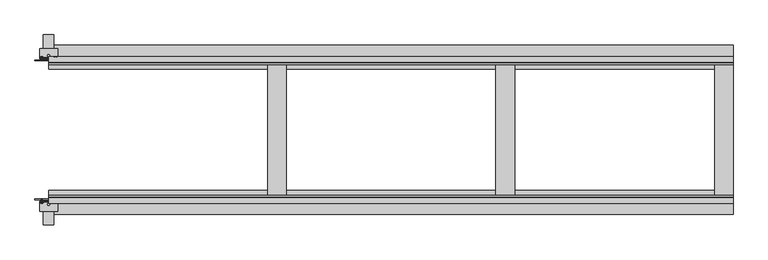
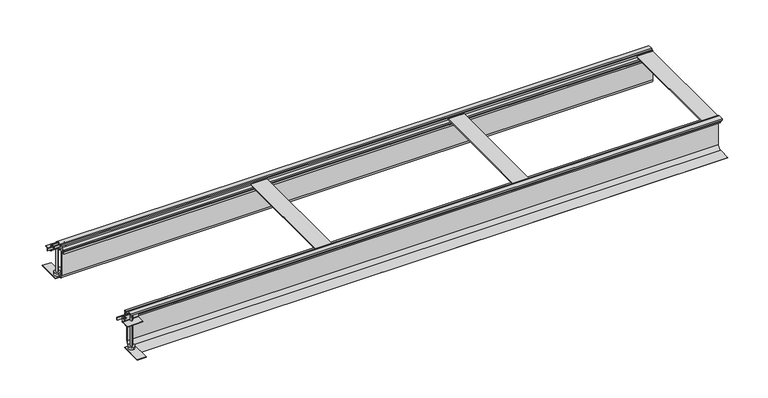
"""IFC4 building model written with IfcOpenShell, lengths in millimetres: proxy geometry."""

from ifc_helpers import new_model, si_unit, point, frame, frame_2d, origin, place, context, project, spatial, polyline, circle_curve, ellipse_curve, trimmed, segment, composite_curve, outline, extrude, source, transform, mapped, element, save
from ifc_brep_helpers import plane_surface, cylinder_surface, revolved_surface, advanced_brep


def electrical_fixtures_e54105be(model_context):
    return source(origin(), model_context, "Body", "SolidModel", [
        advanced_brep(
        [(-19.209696, -256.6418922, 3.3), (-28.790304, -256.6418922, 3.3), (-28.790304, -254.7, 3.3), (-19.209696, -254.7, 3.3), (-26.562969, -254.7, 3.3), (-21.437031, -254.7, 3.3), (-26.562969, -242.7, 3.3), (-21.437031, -242.7, 3.3), (-24.0, -242.7, 3.3), (-24.0, -258.3479209, 3.3)],
        [
            (0, 1, circle_curve(frame((-24.0, -256.6418922, 3.3), z_axis=(0.0, 1.0, 0.0), x_axis=(-1.0, 0.0, 0.0)), 4.790304)),
            (1, 2),
            (2, 3, circle_curve(frame((-24.0, -254.7, 3.3), z_axis=(0.0, -1.0, 0.0), x_axis=(-1.0, 0.0, 0.0)), 4.790304)),
            (3, 0),
            (1, 0, circle_curve(frame((-24.0, -256.6418922, 3.3), z_axis=(0.0, 1.0, 0.0), x_axis=(-1.0, 0.0, 0.0)), 4.790304)),
            (3, 2, circle_curve(frame((-24.0, -254.7, 3.3), z_axis=(0.0, -1.0, 0.0), x_axis=(-1.0, 0.0, 0.0)), 4.790304)),
            (2, 4),
            (4, 5, circle_curve(frame((-24.0, -254.7, 3.3), z_axis=(0.0, -1.0, 0.0), x_axis=(-1.0, 0.0, 0.0)), 2.562969)),
            (5, 3),
            (5, 4, circle_curve(frame((-24.0, -254.7, 3.3), z_axis=(0.0, -1.0, 0.0), x_axis=(-1.0, 0.0, 0.0)), 2.562969)),
            (4, 6),
            (6, 7, circle_curve(frame((-24.0, -242.7, 3.3), z_axis=(0.0, -1.0, 0.0), x_axis=(-1.0, 0.0, 0.0)), 2.562969)),
            (7, 5),
            (7, 6, circle_curve(frame((-24.0, -242.7, 3.3), z_axis=(0.0, -1.0, 0.0), x_axis=(-1.0, 0.0, 0.0)), 2.562969)),
            (6, 8),
            (8, 7),
            (9, 1, circle_curve(frame((-24.0319066, -250.8592246, 3.3), z_axis=(0.0, 0.0, -1.0), x_axis=(-1.0, 0.0, 0.0)), 7.4887643)),
            (0, 9, circle_curve(frame((-23.9680934, -250.8592246, 3.3), z_axis=(0.0, 0.0, -1.0), x_axis=(1.0, 0.0, 0.0)), 7.4887643)),
        ],
        [
            cylinder_surface(frame((-24.0, -254.2950786, 3.3), z_axis=(0.0, -1.0, 0.0), x_axis=(-1.0, 0.0, 0.0)), 4.790304),
            plane_surface(frame((-24.0, -254.7, 3.3), z_axis=(0.0, 1.0, 0.0), x_axis=(-1.0, 0.0, 0.0))),
            cylinder_surface(frame((-24.0, -254.2950786, 3.3), z_axis=(0.0, -1.0, 0.0), x_axis=(-1.0, 0.0, 0.0)), 2.562969),
            plane_surface(frame((-24.0, -242.7, 3.3), z_axis=(0.0, 1.0, 0.0), x_axis=(-1.0, 0.0, 0.0))),
            revolved_surface(trimmed(ellipse_curve(frame((-24.0319066, -250.8592246, 3.3), z_axis=(0.0, 0.0, 1.0), x_axis=(-1.0, 0.0, 0.0)), 7.4887643, 7.4887643), [point((-28.790304, -256.6418922, 3.3))], [point((-24.0, -258.3479209, 3.3))], True, "CARTESIAN"), (-24.0, -254.2950786, 3.3), (0.0, -1.0, 0.0)),
        ],
        [
            (0, [[1, 2, 3, 4]]),
            (0, [[5, -4, 6, -2]]),
            (1, [[-3, 7, 8, 9]]),
            (1, [[-6, -9, 10, -7]]),
            (2, [[-8, 11, 12, 13]]),
            (2, [[-10, -13, 14, -11]]),
            (3, [[-12, 15, 16]]),
            (3, [[-14, -16, -15]]),
            (4, [[17, -1, 18]]),
            (4, [[-18, -5, -17]]),
        ],
    ),
        advanced_brep(
        [(29.0575247, 254.7, 3.3), (19.4769168, 254.7, 3.3), (19.4769168, 256.6418922, 3.3), (29.0575247, 256.6418922, 3.3), (26.8301898, 254.7, 3.3), (21.7042517, 254.7, 3.3), (26.8301898, 242.7, 3.3), (21.7042517, 242.7, 3.3), (24.2672208, 242.7, 3.3), (24.2672208, 258.3479209, 3.3)],
        [
            (0, 1, circle_curve(frame((24.2672208, 254.7, 3.3), z_axis=(0.0, 1.0, 0.0), x_axis=(-1.0, 0.0, 0.0)), 4.790304)),
            (1, 2),
            (2, 3, circle_curve(frame((24.2672208, 256.6418922, 3.3), z_axis=(0.0, -1.0, 0.0), x_axis=(-1.0, 0.0, 0.0)), 4.790304)),
            (3, 0),
            (1, 0, circle_curve(frame((24.2672208, 254.7, 3.3), z_axis=(0.0, 1.0, 0.0), x_axis=(-1.0, 0.0, 0.0)), 4.790304)),
            (3, 2, circle_curve(frame((24.2672208, 256.6418922, 3.3), z_axis=(0.0, -1.0, 0.0), x_axis=(-1.0, 0.0, 0.0)), 4.790304)),
            (4, 5, circle_curve(frame((24.2672208, 254.7, 3.3), z_axis=(0.0, 1.0, 0.0), x_axis=(-1.0, 0.0, 0.0)), 2.562969)),
            (5, 1),
            (0, 4),
            (5, 4, circle_curve(frame((24.2672208, 254.7, 3.3), z_axis=(0.0, 1.0, 0.0), x_axis=(-1.0, 0.0, 0.0)), 2.562969)),
            (6, 7, circle_curve(frame((24.2672208, 242.7, 3.3), z_axis=(0.0, 1.0, 0.0), x_axis=(-1.0, 0.0, 0.0)), 2.562969)),
            (7, 5),
            (4, 6),
            (7, 6, circle_curve(frame((24.2672208, 242.7, 3.3), z_axis=(0.0, 1.0, 0.0), x_axis=(-1.0, 0.0, 0.0)), 2.562969)),
            (8, 7),
            (6, 8),
            (2, 9, circle_curve(frame((24.2353142, 250.8592246, 3.3), z_axis=(0.0, 0.0, -1.0), x_axis=(-1.0, 0.0, 0.0)), 7.4887643)),
            (9, 3, circle_curve(frame((24.2991274, 250.8592246, 3.3), z_axis=(0.0, 0.0, -1.0), x_axis=(1.0, 0.0, 0.0)), 7.4887643)),
        ],
        [
            cylinder_surface(frame((24.2672208, 254.2950786, 3.3), z_axis=(0.0, -1.0, 0.0), x_axis=(-1.0, 0.0, 0.0)), 4.790304),
            plane_surface(frame((24.2672208, 254.7, 3.3), z_axis=(0.0, -1.0, 0.0), x_axis=(-1.0, 0.0, 0.0))),
            cylinder_surface(frame((24.2672208, 254.2950786, 3.3), z_axis=(0.0, -1.0, 0.0), x_axis=(-1.0, 0.0, 0.0)), 2.562969),
            plane_surface(frame((24.2672208, 242.7, 3.3), z_axis=(0.0, -1.0, 0.0), x_axis=(-1.0, 0.0, 0.0))),
            revolved_surface(trimmed(ellipse_curve(frame((24.2353142, 250.8592246, 3.3), z_axis=(0.0, 0.0, 1.0), x_axis=(-1.0, 0.0, 0.0)), 7.4887643, 7.4887643), [point((24.2672208, 258.3479209, 3.3))], [point((19.4769168, 256.6418922, 3.3))], True, "CARTESIAN"), (24.2672208, 254.2950786, 3.3), (0.0, -1.0, 0.0)),
        ],
        [
            (0, [[1, 2, 3, 4]]),
            (0, [[5, -4, 6, -2]]),
            (1, [[7, 8, -1, 9]]),
            (1, [[10, -9, -5, -8]]),
            (2, [[11, 12, -7, 13]]),
            (2, [[14, -13, -10, -12]]),
            (3, [[15, -11, 16]]),
            (3, [[-16, -14, -15]]),
            (4, [[-3, 17, 18]]),
            (4, [[-6, -18, -17]]),
        ],
    ),
        advanced_brep(
        [(-19.209696, 254.7, 3.3), (-28.790304, 254.7, 3.3), (-28.790304, 256.6418922, 3.3), (-19.209696, 256.6418922, 3.3), (-21.437031, 254.7, 3.3), (-26.562969, 254.7, 3.3), (-21.437031, 242.7, 3.3), (-26.562969, 242.7, 3.3), (-24.0, 242.7, 3.3), (-24.0, 258.3479209, 3.3)],
        [
            (0, 1, circle_curve(frame((-24.0, 254.7, 3.3), z_axis=(0.0, 1.0, 0.0), x_axis=(-1.0, 0.0, 0.0)), 4.790304)),
            (1, 2),
            (2, 3, circle_curve(frame((-24.0, 256.6418922, 3.3), z_axis=(0.0, -1.0, 0.0), x_axis=(-1.0, 0.0, 0.0)), 4.790304)),
            (3, 0),
            (1, 0, circle_curve(frame((-24.0, 254.7, 3.3), z_axis=(0.0, 1.0, 0.0), x_axis=(-1.0, 0.0, 0.0)), 4.790304)),
            (3, 2, circle_curve(frame((-24.0, 256.6418922, 3.3), z_axis=(0.0, -1.0, 0.0), x_axis=(-1.0, 0.0, 0.0)), 4.790304)),
            (4, 5, circle_curve(frame((-24.0, 254.7, 3.3), z_axis=(0.0, 1.0, 0.0), x_axis=(-1.0, 0.0, 0.0)), 2.562969)),
            (5, 1),
            (0, 4),
            (5, 4, circle_curve(frame((-24.0, 254.7, 3.3), z_axis=(0.0, 1.0, 0.0), x_axis=(-1.0, 0.0, 0.0)), 2.562969)),
            (6, 7, circle_curve(frame((-24.0, 242.7, 3.3), z_axis=(0.0, 1.0, 0.0), x_axis=(-1.0, 0.0, 0.0)), 2.562969)),
            (7, 5),
            (4, 6),
            (7, 6, circle_curve(frame((-24.0, 242.7, 3.3), z_axis=(0.0, 1.0, 0.0), x_axis=(-1.0, 0.0, 0.0)), 2.562969)),
            (8, 7),
            (6, 8),
            (2, 9, circle_curve(frame((-24.0319066, 250.8592246, 3.3), z_axis=(0.0, 0.0, -1.0), x_axis=(-1.0, 0.0, 0.0)), 7.4887643)),
            (9, 3, circle_curve(frame((-23.9680934, 250.8592246, 3.3), z_axis=(0.0, 0.0, -1.0), x_axis=(1.0, 0.0, 0.0)), 7.4887643)),
        ],
        [
            cylinder_surface(frame((-24.0, 254.2950786, 3.3), z_axis=(0.0, -1.0, 0.0), x_axis=(-1.0, 0.0, 0.0)), 4.790304),
            plane_surface(frame((-24.0, 254.7, 3.3), z_axis=(0.0, -1.0, 0.0), x_axis=(-1.0, 0.0, 0.0))),
            cylinder_surface(frame((-24.0, 254.2950786, 3.3), z_axis=(0.0, -1.0, 0.0), x_axis=(-1.0, 0.0, 0.0)), 2.562969),
            plane_surface(frame((-24.0, 242.7, 3.3), z_axis=(0.0, -1.0, 0.0), x_axis=(-1.0, 0.0, 0.0))),
            revolved_surface(trimmed(ellipse_curve(frame((-24.0319066, 250.8592246, 3.3), z_axis=(0.0, 0.0, 1.0), x_axis=(-1.0, 0.0, 0.0)), 7.4887643, 7.4887643), [point((-24.0, 258.3479209, 3.3))], [point((-28.790304, 256.6418922, 3.3))], True, "CARTESIAN"), (-24.0, 254.2950786, 3.3), (0.0, -1.0, 0.0)),
        ],
        [
            (0, [[1, 2, 3, 4]]),
            (0, [[5, -4, 6, -2]]),
            (1, [[7, 8, -1, 9]]),
            (1, [[10, -9, -5, -8]]),
            (2, [[11, 12, -7, 13]]),
            (2, [[14, -13, -10, -12]]),
            (3, [[15, -11, 16]]),
            (3, [[-16, -14, -15]]),
            (4, [[-3, 17, 18]]),
            (4, [[-6, -18, -17]]),
        ],
    ),
        extrude(outline(polyline([(-48.0, 242.7), (-48.0, 245.7), (48.0, 245.7), (48.0, 242.7), (-48.0, 242.7)])), frame((0.0, 0.0, -1.7), z_axis=(0.0, 0.0, 1.0), x_axis=(1.0, 0.0, 0.0)), (0.0, 0.0, 1.0), 10.0),
        extrude(outline(polyline([(-48.0, -245.7), (-48.0, -242.7), (48.0, -242.7), (48.0, -245.7), (-48.0, -245.7)])), frame((0.0, 0.0, -1.7), z_axis=(0.0, 0.0, 1.0), x_axis=(1.0, 0.0, 0.0)), (0.0, 0.0, 1.0), 10.0),
        extrude(outline(composite_curve([segment(polyline([(250.6, 11.7), (252.6, 11.7), (252.6, -10.3088822)]), True, "CONTINUOUS"), segment(trimmed(circle_curve(frame_2d((253.5911178, -10.3088822)), 0.9911178), [point((252.6, -10.3088822))], [point((253.5911178, -11.3))], True, "CARTESIAN"), True, "CONTINUOUS"), segment(polyline([(253.5911178, -11.3), (285.6, -11.3), (285.6, -13.3), (253.6002521, -13.3)]), True, "CONTINUOUS"), segment(trimmed(circle_curve(frame_2d((253.6002521, -10.2997479)), 3.0002521), [point((253.6002521, -13.3))], [point((250.6, -10.2997479))], False, "CARTESIAN"), True, "CONTINUOUS"), segment(polyline([(250.6, -10.2997479), (250.6, 11.7)]), True, "CONTINUOUS")], self_intersect=False)), frame((-31.7, 0.0, 0.0), z_axis=(1.0, 0.0, 0.0), x_axis=(0.0, 1.0, 0.0)), (0.0, 0.0, 1.0), 63.4),
        extrude(outline(composite_curve([segment(polyline([(-250.6, 11.7), (-250.6, -10.2997479)]), True, "CONTINUOUS"), segment(trimmed(circle_curve(frame_2d((-253.6002521, -10.2997479)), 3.0002521), [point((-250.6, -10.2997479))], [point((-253.6002521, -13.3))], False, "CARTESIAN"), True, "CONTINUOUS"), segment(polyline([(-253.6002521, -13.3), (-285.6, -13.3), (-285.6, -11.3), (-253.5911178, -11.3)]), True, "CONTINUOUS"), segment(trimmed(circle_curve(frame_2d((-253.5911178, -10.3088822)), 0.9911178), [point((-253.5911178, -11.3))], [point((-252.6, -10.3088822))], True, "CARTESIAN"), True, "CONTINUOUS"), segment(polyline([(-252.6, -10.3088822), (-252.6, 11.7), (-250.6, 11.7)]), True, "CONTINUOUS")], self_intersect=False)), frame((-31.7, 0.0, 0.0), z_axis=(1.0, 0.0, 0.0), x_axis=(0.0, 1.0, 0.0)), (0.0, 0.0, 1.0), 63.4),
        extrude(outline(composite_curve([segment(trimmed(circle_curve(frame_2d((0.0, 261.1712378)), 3.9923162), [point((0.0, 265.163554))], [point((0.0, 257.1789216))], False, "CARTESIAN"), True, "CONTINUOUS"), segment(trimmed(circle_curve(frame_2d((0.0, 261.1712378)), 3.9923162), [point((0.0, 257.1789216))], [point((0.0, 265.163554))], False, "CARTESIAN"), True, "CONTINUOUS")], self_intersect=False)), frame((0.0, 0.0, -119.0), z_axis=(0.0, 0.0, 1.0), x_axis=(1.0, 0.0, 0.0)), (0.0, 0.0, 1.0), 126.8),
        extrude(outline(composite_curve([segment(trimmed(circle_curve(frame_2d((0.0, -261.0787011)), 3.991847), [point((0.0, -257.0868541))], [point((0.0, -265.0705482))], False, "CARTESIAN"), True, "CONTINUOUS"), segment(trimmed(circle_curve(frame_2d((0.0, -261.0787011)), 3.991847), [point((0.0, -265.0705482))], [point((0.0, -257.0868541))], False, "CARTESIAN"), True, "CONTINUOUS")], self_intersect=False)), frame((0.0, 0.0, -119.0), z_axis=(0.0, 0.0, 1.0), x_axis=(1.0, 0.0, 0.0)), (0.0, 0.0, 1.0), 126.8),
        extrude(outline(composite_curve([segment(trimmed(circle_curve(frame_2d((0.0, 261.1652527)), 12.0), [point((0.0, 273.1652527))], [point((0.0, 249.1652527))], False, "CARTESIAN"), True, "CONTINUOUS"), segment(trimmed(circle_curve(frame_2d((0.0, 261.1652527)), 12.0), [point((0.0, 249.1652527))], [point((0.0, 273.1652527))], False, "CARTESIAN"), True, "CONTINUOUS")], self_intersect=False)), frame((0.0, 0.0, -129.7), z_axis=(0.0, 0.0, 1.0), x_axis=(1.0, 0.0, 0.0)), (0.0, 0.0, 1.0), 10.7),
        extrude(outline(composite_curve([segment(trimmed(circle_curve(frame_2d((0.0, -261.112037)), 12.0), [point((0.0, -249.112037))], [point((0.0, -273.112037))], False, "CARTESIAN"), True, "CONTINUOUS"), segment(trimmed(circle_curve(frame_2d((0.0, -261.112037)), 12.0), [point((0.0, -273.112037))], [point((0.0, -249.112037))], False, "CARTESIAN"), True, "CONTINUOUS")], self_intersect=False)), frame((0.0, 0.0, -129.7), z_axis=(0.0, 0.0, 1.0), x_axis=(1.0, 0.0, 0.0)), (0.0, 0.0, 1.0), 10.7),
        extrude(outline(polyline([(18.0, 244.1), (-18.0, 244.1), (-18.0, 334.1), (18.0, 334.1), (18.0, 244.1)])), frame((0.0, 0.0, -131.2), z_axis=(0.0, 0.0, 1.0), x_axis=(1.0, 0.0, 0.0)), (0.0, 0.0, 1.0), 1.5),
        extrude(outline(polyline([(18.0, -334.1), (-18.0, -334.1), (-18.0, -244.1), (18.0, -244.1), (18.0, -334.1)])), frame((0.0, 0.0, -131.2), z_axis=(0.0, 0.0, 1.0), x_axis=(1.0, 0.0, 0.0)), (0.0, 0.0, 1.0), 1.5),
        extrude(outline(polyline([(2400.0, 230.0), (2400.0, -230.0), (2335.0, -230.0), (2335.0, 230.0), (2400.0, 230.0)])), frame((0.0, 0.0, 2.5), z_axis=(0.0, 0.0, 1.0), x_axis=(1.0, 0.0, 0.0)), (0.0, 0.0, 1.0), 4.2),
        extrude(outline(polyline([(1633.5851476, 229.8), (1633.5851476, -229.8), (1568.585332, -229.8), (1568.585332, 229.8), (1633.5851476, 229.8)])), frame((0.0, 0.0, 2.5), z_axis=(0.0, 0.0, 1.0), x_axis=(1.0, 0.0, 0.0)), (0.0, 0.0, 1.0), 4.2),
        extrude(outline(polyline([(833.5851476, 229.8), (833.5851476, -229.8), (768.585332, -229.8), (768.585332, 229.8), (833.5851476, 229.8)])), frame((0.0, 0.0, 2.5), z_axis=(0.0, 0.0, 1.0), x_axis=(1.0, 0.0, 0.0)), (0.0, 0.0, 1.0), 4.2),
        extrude(outline(polyline([(258.0, 6.7), (240.0, 6.7), (240.0, -2.5), (250.475, -2.5), (250.475, -4.0), (244.6, -4.0), (244.6, -14.0), (243.1, -14.0), (243.1, -4.0), (235.1, -4.0), (235.1, -10.1), (223.3, -10.1), (223.3, -14.0), (213.1, -14.0), (213.1, -6.6607064), (216.0, -6.6607064), (216.0, -12.5), (220.7, -12.5), (220.7, 0.5), (216.0, 0.5), (216.0, -2.1), (212.9910979, -2.1), (212.9910979, 2.5), (229.8, 2.5), (229.8, 10.0), (235.0, 10.0), (235.0, -0.5), (238.0, -0.5), (238.0, 13.0), (258.0, 13.0), (258.0, 6.7)])), frame((0.0, 0.0, 0.0), z_axis=(1.0, 0.0, 0.0), x_axis=(0.0, 1.0, 0.0)), (0.0, 0.0, 1.0), 2400.0),
        extrude(outline(polyline([(-258.0, 6.7), (-258.0, 13.0), (-238.0, 13.0), (-238.0, -0.5), (-235.0, -0.5), (-235.0, 10.0), (-229.8, 10.0), (-229.8, 2.5), (-212.9910979, 2.5), (-212.9910979, -2.1), (-216.0, -2.1), (-216.0, 0.5), (-220.7, 0.5), (-220.7, -12.5), (-216.0, -12.5), (-216.0, -6.6607064), (-213.1, -6.6607064), (-213.1, -14.0), (-223.3, -14.0), (-223.3, -10.1), (-235.1, -10.1), (-235.1, -4.0), (-243.1, -4.0), (-243.1, -14.0), (-244.6, -14.0), (-244.6, -4.0), (-250.475, -4.0), (-250.475, -2.5), (-240.0, -2.5), (-240.0, 6.7), (-258.0, 6.7)])), frame((0.0, 0.0, 0.0), z_axis=(1.0, 0.0, 0.0), x_axis=(0.0, 1.0, 0.0)), (0.0, 0.0, 1.0), 2400.0),
        extrude(outline(composite_curve([segment(polyline([(230.1407967, -1.2), (230.9257245, -1.2), (230.9257245, -116.2)]), True, "CONTINUOUS"), segment(trimmed(circle_curve(frame_2d((245.9257245, -116.2)), 15.0), [point((230.9257245, -116.2))], [point((245.9257245, -131.2))], True, "CARTESIAN"), True, "CONTINUOUS"), segment(polyline([(245.9257245, -131.2), (297.2934005, -131.2), (297.2934005, -131.9992624), (245.1407967, -131.9992624)]), True, "CONTINUOUS"), segment(trimmed(circle_curve(frame_2d((245.1407967, -116.9992624)), 15.0), [point((245.1407967, -131.9992624))], [point((230.1407967, -116.9992624))], False, "CARTESIAN"), True, "CONTINUOUS"), segment(polyline([(230.1407967, -116.9992624), (230.1407967, -1.2)]), True, "CONTINUOUS")], self_intersect=False)), frame((0.0, 0.0, 0.0), z_axis=(1.0, 0.0, 0.0), x_axis=(0.0, 1.0, 0.0)), (0.0, 0.0, 1.0), 2400.0),
        extrude(outline(composite_curve([segment(polyline([(-230.1407967, -1.2), (-230.1407967, -116.9992624)]), True, "CONTINUOUS"), segment(trimmed(circle_curve(frame_2d((-245.1407967, -116.9992624)), 15.0), [point((-230.1407967, -116.9992624))], [point((-245.1407967, -131.9992624))], False, "CARTESIAN"), True, "CONTINUOUS"), segment(polyline([(-245.1407967, -131.9992624), (-297.2934005, -131.9992624), (-297.2934005, -131.2), (-245.9257245, -131.2)]), True, "CONTINUOUS"), segment(trimmed(circle_curve(frame_2d((-245.9257245, -116.2)), 15.0), [point((-245.9257245, -131.2))], [point((-230.9257245, -116.2))], True, "CARTESIAN"), True, "CONTINUOUS"), segment(polyline([(-230.9257245, -116.2), (-230.9257245, -1.2), (-230.1407967, -1.2)]), True, "CONTINUOUS")], self_intersect=False)), frame((0.0, 0.0, 0.0), z_axis=(1.0, 0.0, 0.0), x_axis=(0.0, 1.0, 0.0)), (0.0, 0.0, 1.0), 2400.0),
    ])


if __name__ == "__main__":
    model = new_model("IFC4")
    model_context = context("Model", 3, world=origin())
    ifc_project = project(units=[si_unit("LENGTHUNIT", "METRE", prefix="MILLI")], contexts=[model_context])
    site = spatial("IfcSite", under=ifc_project)
    building = spatial("IfcBuilding", under=site)
    placement = place(None, origin())
    electrical_fixtures_shape = electrical_fixtures_e54105be(model_context)
    element("IfcBuildingElementProxy", 1, Name="Electrical Fixtures", at=placement, inside=building, context=model_context, shape_type="MappedRepresentation", body=[
        mapped(electrical_fixtures_shape, transform((0.0, 0.0, 0.0), x_axis=(1.0, 0.0, 0.0), y_axis=(0.0, 1.0, 0.0), z_axis=(0.0, 0.0, 1.0))),
    ])
    save(model, "model.ifc")
